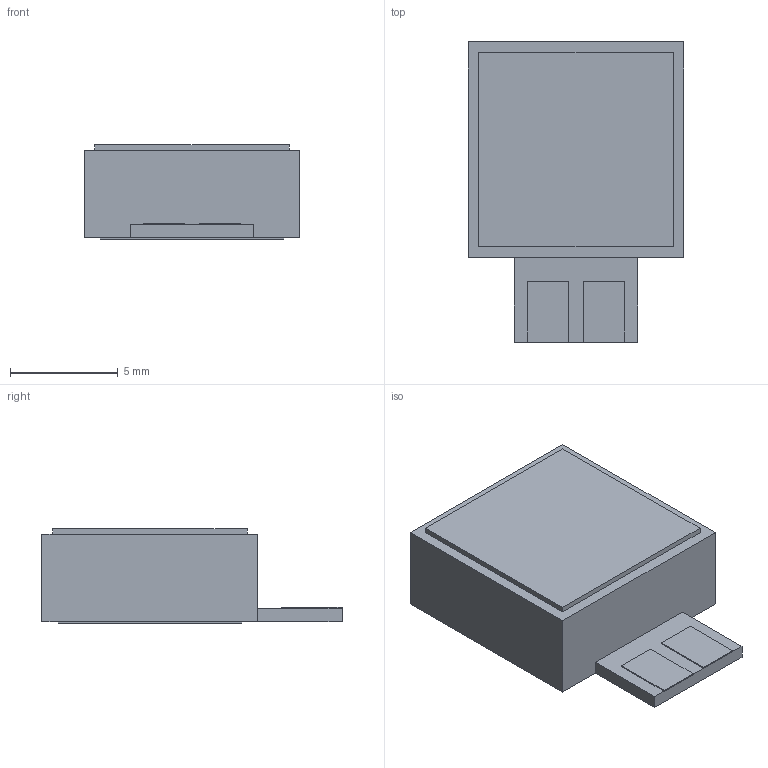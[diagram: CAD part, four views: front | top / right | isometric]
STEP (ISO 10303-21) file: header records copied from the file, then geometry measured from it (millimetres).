
FILE_DESCRIPTION(('Open CASCADE Model'),'2;1');
FILE_NAME('Vybronics_VLV101040A_LRA','2026-09-04T00:01:42',('Author'),( 'Open CASCADE'),'Open CASCADE STEP processor 7.9','build123d', 'Unknown');
FILE_SCHEMA(('AUTOMOTIVE_DESIGN { 1 0 10303 214 1 1 1 1 }'));
Length unit declared in the file: millimetre
Products named in the file (7): Vybronics_VLV101040A_LRA; can; adhesive_tape; poron_top; fpc_tail; pad_1; pad_2
Assembly tree (6 placements, depth 2):
  Vybronics_VLV101040A_LRA
    can
    adhesive_tape
    poron_top
    fpc_tail
    pad_1
    pad_2
Bounding box: 10 x 13.9 x 4.37 mm (x, y, z)
Volume: 444.6 mm3; surface area: 758.5 mm2
Topology: 6 solids, 6 shells, 36 faces, 72 edges, 48 vertices
Faces by surface type: plane 36
Entity records: 1024 total; most frequent: CARTESIAN_POINT 163, DIRECTION 158, ORIENTED_EDGE 144, EDGE_CURVE 72, LINE 72, VECTOR 72, VERTEX_POINT 48, AXIS2_PLACEMENT_3D 43
